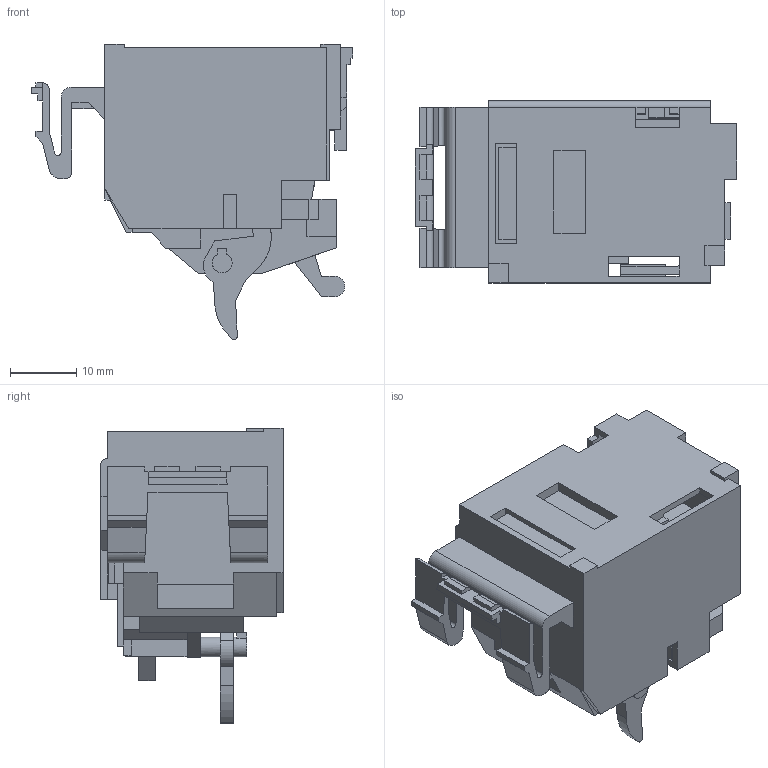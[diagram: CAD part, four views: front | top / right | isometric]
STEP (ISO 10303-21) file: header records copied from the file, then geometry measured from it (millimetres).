
FILE_DESCRIPTION(/* description */ (''),/* implementation_level */ '2;1');
FILE_NAME(/* name */ '分励（MX）TGM1N-250AC230V(右).stp',/* time_stamp */ '2018-10-30T15:37:31+08:00',/* author */ (''),/* organization */ (''),/* preprocessor_version */ 'ST-DEVELOPER v16',/* originating_system */ 'SIEMENS PLM Software NX 10.0',/* authorisation */ '');
FILE_SCHEMA (('AUTOMOTIVE_DESIGN { 1 0 10303 214 3 1 1 1 }'));
Length unit declared in the file: millimetre
Products named in the file (1): boj7F840C24e7xl
Bounding box: 48.5 x 27.5 x 44.58 mm (x, y, z)
Volume: 18353.9 mm3; surface area: 12325.5 mm2
Topology: 1 solids, 1 shells, 350 faces, 1038 edges, 685 vertices
Faces by surface type: plane 328, cylinder 22
Full cylindrical faces by diameter (mm): 3 x2, 4 x1, 4.5 x1
Entity records: 11524 total; most frequent: CARTESIAN_POINT 2066, ORIENTED_EDGE 2064, DIRECTION 1786, EDGE_CURVE 1032, LINE 980, VECTOR 980, VERTEX_POINT 683, AXIS2_PLACEMENT_3D 403
